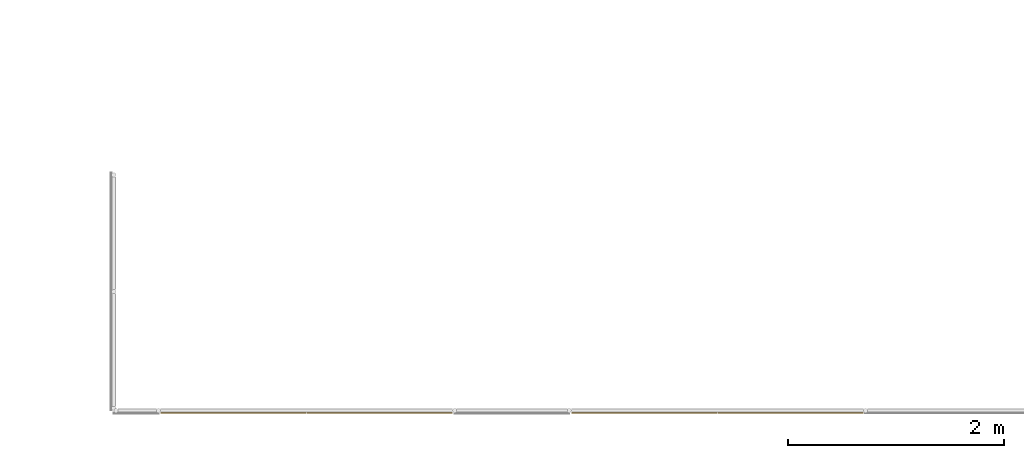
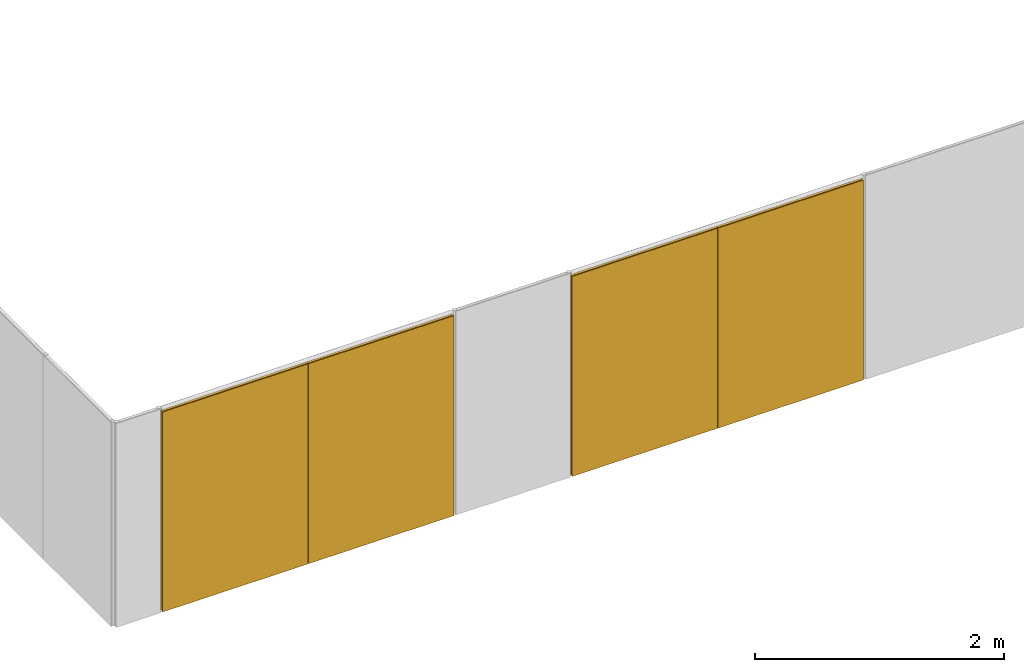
# One storey, part 46 of 82: 2 doors, 1 element without a shape of its own.
"""IFC2X3 building model written with IfcOpenShell, lengths in metres."""

import ifcopenshell
import ifcopenshell.guid

model = None  # the IFC model being written
_history = None  # IfcOwnerHistory: only IFC2X3 demands one
_inside = {}  # id of a spatial element -> (the spatial element, [elements in it])
_under = {}  # id of a project, library or spatial element -> (it, [spatial elements below it])
_declared = {}  # id of a project -> (the project, [libraries it declares])
_typed = {}  # id of a type object -> (the type object, [elements of that type])
_made_of = {}  # id of a material, layer set ... -> (it, [elements and type objects made of it])


def new_model(schema):
    """Start an empty IFC model of exactly this schema.

    Asked for "IFC4X3", IfcOpenShell would pick the latest addendum, in which some entities
    have other attributes; the version numbers below select the first issue.
    IFC2X3 requires an IfcOwnerHistory on every rooted entity: one is made here for all.
    """
    global model, _history
    if schema == "IFC4X3":
        model = ifcopenshell.file(schema_version=(4, 3, 0, 0))
    else:
        model = ifcopenshell.file(schema=schema)
    _inside.clear()
    _under.clear()
    _declared.clear()
    _typed.clear()
    _made_of.clear()
    _history = None
    if model.schema == "IFC2X3":
        org = make("IfcOrganization", Name="unknown")
        user = make(
            "IfcPersonAndOrganization",
            ThePerson=make("IfcPerson", FamilyName="unknown"),
            TheOrganization=org,
        )
        app = make(
            "IfcApplication",
            ApplicationDeveloper=org,
            Version="unknown",
            ApplicationFullName="unknown",
            ApplicationIdentifier="unknown",
        )
        _history = make(
            "IfcOwnerHistory",
            OwningUser=user,
            OwningApplication=app,
            ChangeAction="ADDED",
            CreationDate=0,
        )
    return model


def make(cls, **values):
    """One entity of the class cls with the attributes given. An attribute that is None is left unset."""
    return model.create_entity(
        cls, **{name: value for name, value in values.items() if value is not None}
    )


def entity(cls, *values):
    """Any entity or typed value of the class cls, its attributes in the order of the schema. None: left unset."""
    e = model.create_entity(cls)
    for i, value in enumerate(values):
        if value is not None:
            e[i] = value
    return e


def rooted(cls, **values):
    """An entity with a GlobalId (a new one), such as an element, a storey or a relation."""
    return make(cls, GlobalId=ifcopenshell.guid.new(), OwnerHistory=_history, **values)


def si_unit(unit_type, name, prefix=None):
    """IfcSIUnit, for example si_unit("LENGTHUNIT", "METRE", prefix="MILLI")."""
    return make("IfcSIUnit", UnitType=unit_type, Prefix=prefix, Name=name)


def converted_unit(unit_type, name, factor, base, dimensions=None, offset=None):
    """IfcConversionBasedUnit, such as the inch: factor (a typed value) times the base unit."""
    return make(
        "IfcConversionBasedUnit"
        if offset is None
        else "IfcConversionBasedUnitWithOffset",
        ConversionOffset=offset,
        Dimensions=None
        if dimensions is None
        else entity("IfcDimensionalExponents", *dimensions),
        UnitType=unit_type,
        Name=name,
        ConversionFactor=make(
            "IfcMeasureWithUnit", ValueComponent=factor, UnitComponent=base
        ),
    )


def assignment(units):
    """IfcUnitAssignment: the units of a project."""
    return None if units is None else make("IfcUnitAssignment", Units=units)


def point(xyz):
    """IfcCartesianPoint."""
    return None if xyz is None else make("IfcCartesianPoint", Coordinates=xyz)


def direction(xyz):
    """IfcDirection."""
    return None if xyz is None else make("IfcDirection", DirectionRatios=xyz)


def frame(location, z_axis=None, x_axis=None):
    """IfcAxis2Placement3D, a coordinate frame: its origin and axes. An axis left out is left unset."""
    return make(
        "IfcAxis2Placement3D",
        Location=point(location),
        Axis=direction(z_axis),
        RefDirection=direction(x_axis),
    )


def origin():
    """The frame at (0, 0, 0) with its axes left unset."""
    return frame((0.0, 0.0, 0.0))


def place(relative_to, where):
    """IfcLocalPlacement: puts the frame where relative to a parent placement (None: the world)."""
    return make(
        "IfcLocalPlacement", PlacementRelTo=relative_to, RelativePlacement=where
    )


def context(
    kind, dimensions, precision=None, world=None, true_north=None, identifier=None
):
    """IfcGeometricRepresentationContext, for example the 3D "Model" context."""
    return make(
        "IfcGeometricRepresentationContext",
        ContextIdentifier=identifier,
        ContextType=kind,
        CoordinateSpaceDimension=dimensions,
        Precision=precision,
        WorldCoordinateSystem=world,
        TrueNorth=true_north,
    )


def project(units=None, contexts=None):
    """IfcProject with its units and contexts."""
    return rooted(
        "IfcProject",
        Name="project",
        RepresentationContexts=contexts,
        UnitsInContext=assignment(units),
    )


def spatial(cls, under=None, at=None, **own):
    """A site, building, storey or space (cls), placed at a placement, below another one or the project."""
    s = rooted(cls, ObjectPlacement=at, **own)
    if under is not None:
        _under.setdefault(under.id(), (under, []))[1].append(s)
    return s


def faces_of(points, faces, orient=None, outer=None):
    """IfcFace entities. A face is a list of loops; a loop is a list of indices into points, from 0.

    orient and outer hold one flag for each loop. By default every Orientation is true, the
    first loop of a face is its IfcFaceOuterBound and the others are IfcFaceBound.
    """
    made = []
    for i, loops in enumerate(faces):
        bounds = []
        for j, loop in enumerate(loops):
            is_outer = j == 0 if outer is None else outer[i][j]
            bounds.append(
                make(
                    "IfcFaceOuterBound" if is_outer else "IfcFaceBound",
                    Bound=make("IfcPolyLoop", Polygon=[points[k] for k in loop]),
                    Orientation=True if orient is None else orient[i][j],
                )
            )
        made.append(make("IfcFace", Bounds=bounds))
    return made


def face_set(faces, orient=None, outer=None):
    """The faces of one IfcConnectedFaceSet. surface_model builds it on its shared points."""
    return ("IfcConnectedFaceSet", faces, orient, outer)


def surface_model(cls, points, shells):
    """IfcFaceBasedSurfaceModel or IfcShellBasedSurfaceModel (cls): surfaces that need not close."""
    shared = [point(p) for p in points]
    made = [make(c, CfsFaces=faces_of(shared, fs, o, b)) for c, fs, o, b in shells]
    if cls == "IfcFaceBasedSurfaceModel":
        return make(cls, FbsmFaces=made)
    return make(cls, SbsmBoundary=made)


def shape(context_of_items, identifier, shape_type, items):
    """IfcShapeRepresentation: the items that make up one representation, for example the "Body"."""
    return make(
        "IfcShapeRepresentation",
        ContextOfItems=context_of_items,
        RepresentationIdentifier=identifier,
        RepresentationType=shape_type,
        Items=items,
    )


def source(mapping_origin, context_of_items, identifier, shape_type, items):
    """IfcRepresentationMap: a shape defined once, which mapped items show again and again."""
    return make(
        "IfcRepresentationMap",
        MappingOrigin=mapping_origin,
        MappedRepresentation=shape(context_of_items, identifier, shape_type, items),
    )


def transform(
    local_origin,
    x_axis=None,
    y_axis=None,
    z_axis=None,
    scale=None,
    scale2=None,
    scale3=None,
    uniform=True,
):
    """IfcCartesianTransformationOperator3D, or its non-uniform kind. x_axis, y_axis, z_axis: its Axis1, 2, 3."""
    if uniform:
        return make(
            "IfcCartesianTransformationOperator3D",
            Axis1=direction(x_axis),
            Axis2=direction(y_axis),
            LocalOrigin=point(local_origin),
            Scale=scale,
            Axis3=direction(z_axis),
        )
    return make(
        "IfcCartesianTransformationOperator3DnonUniform",
        Axis1=direction(x_axis),
        Axis2=direction(y_axis),
        LocalOrigin=point(local_origin),
        Scale=scale,
        Axis3=direction(z_axis),
        Scale2=scale2,
        Scale3=scale3,
    )


def mapped(mapping_source, mapping_target):
    """IfcMappedItem: shows the shape of a source again, moved by a transform."""
    return make(
        "IfcMappedItem", MappingSource=mapping_source, MappingTarget=mapping_target
    )


def made_of(thing, what):
    """Note that an element or type object is made of a material, layer set ...; save() writes the relation."""
    if what is not None:
        _made_of.setdefault(what.id(), (what, []))[1].append(thing)
    return thing


def type_object(cls, material=None, **own):
    """A type object (cls), such as IfcWallType, which elements share."""
    return made_of(rooted(cls, **own), material)


def type_shapes(of_type, sources):
    """Give a type object the sources (RepresentationMaps) that its elements show as mapped items."""
    of_type.RepresentationMaps = sources


def element(
    cls,
    number,
    at=None,
    inside=None,
    cuts=None,
    type_object=None,
    material=None,
    context=None,
    identifier="Body",
    shape_type=None,
    held_by="IfcProductDefinitionShape",
    body=None,
    shapes=None,
    **own,
):
    """One element of the class cls, such as IfcWall. Its Tag is "e" and its number.

    at: its placement. inside: the storey or other place that contains it. cuts: it is an
    opening in that element (IfcRelVoidsElement). A single representation is given by context,
    identifier, shape_type and body (its items); several are given by shapes. held_by: the class
    of the entity that holds the representations. save() writes the other relations.
    """
    e = rooted(cls, Tag="e%d" % number, ObjectPlacement=at, **own)
    if body is not None:
        shapes = [shape(context, identifier, shape_type, body)]
    if shapes is not None:
        e.Representation = make(held_by, Representations=shapes)
    if inside is not None:
        _inside.setdefault(inside.id(), (inside, []))[1].append(e)
    if cuts is not None:
        rooted(
            "IfcRelVoidsElement", RelatingBuildingElement=cuts, RelatedOpeningElement=e
        )
    if type_object is not None:
        _typed.setdefault(type_object.id(), (type_object, []))[1].append(e)
    return made_of(e, material)


def aggregate(whole, parts):
    """IfcRelAggregates: a whole, such as a stair, and the parts it consists of."""
    return rooted("IfcRelAggregates", RelatingObject=whole, RelatedObjects=parts)


def save(model, path):
    """Write the relations noted so far, then the file.

    IfcRelAggregates (storeys below a building ...), IfcRelContainedInSpatialStructure (elements
    in a storey), IfcRelDefinesByType, IfcRelAssociatesMaterial and IfcRelDeclares: one each for
    every whole, place, type object, material and project.
    """
    for whole, parts in _under.values():
        aggregate(whole, parts)
    for where, things in _inside.values():
        rooted(
            "IfcRelContainedInSpatialStructure",
            RelatedElements=things,
            RelatingStructure=where,
        )
    for kind, things in _typed.values():
        rooted("IfcRelDefinesByType", RelatedObjects=things, RelatingType=kind)
    for what, things in _made_of.values():
        rooted("IfcRelAssociatesMaterial", RelatedObjects=things, RelatingMaterial=what)
    for by, libraries in _declared.values():
        rooted("IfcRelDeclares", RelatingContext=by, RelatedDefinitions=libraries)
    model.write(path)


model = new_model("IFC2X3")

# Units and contexts
model_context = context("Model", 3, precision=1e-09, world=origin())
plan_context = context("Plan", 3, precision=1e-09, world=origin())
ifc_project = project(units=[si_unit("LENGTHUNIT", "METRE"), si_unit("AREAUNIT", "SQUARE_METRE"), si_unit("VOLUMEUNIT", "CUBIC_METRE"), converted_unit("PLANEANGLEUNIT", "DEGREE", entity("IfcRatioMeasure", 0.01745329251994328), si_unit("PLANEANGLEUNIT", "RADIAN"), dimensions=[0, 0, 0, 0, 0, 0, 0]), si_unit("TIMEUNIT", "SECOND")], contexts=[model_context, plan_context])

# Site, building, storey
site_placement = place(None, origin())
site = spatial("IfcSite", under=ifc_project, at=site_placement, Name="Default", CompositionType="ELEMENT")
building_placement = place(site_placement, origin())
building = spatial("IfcBuilding", under=site, at=building_placement, CompositionType="ELEMENT")
storey_placement = place(building_placement, origin())
storey = spatial("IfcBuildingStorey", under=building, at=storey_placement, Name="First Floor", CompositionType="ELEMENT", Elevation=-3.531500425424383e-13)

# Curtain wall, doors
curtain_wall_placement = place(storey_placement, origin())
curtain_wall = element("IfcCurtainWall", 1, at=curtain_wall_placement, inside=storey, Name="Curtain Wall:Chain Link Fence", ObjectType="Curtain Wall:Chain Link Fence")
door_style = type_object("IfcDoorStyle", Name="M_Curtain Wall Dbl Chain Link", ConstructionType="NOTDEFINED", OperationType="NOTDEFINED", ParameterTakesPrecedence=False, Sizeable=False)
shared_shape = source(origin(), model_context, "Body", "SurfaceModel", [
    surface_model("IfcFaceBasedSurfaceModel", [(-0.001587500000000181, -0.019, 1.962), (-0.001587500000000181, -0.019, 0.0), (-1.350999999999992, -0.019, 0.0), (-1.350999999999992, -0.019, 1.962), (-0.001587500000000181, -0.0269999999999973, 1.962), (-0.001587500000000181, -0.0269999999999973, 0.0), (-1.350999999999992, -0.0269999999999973, 0.0), (-1.350999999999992, -0.0269999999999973, 1.962), (0.00158749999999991, -0.019, 1.962), (1.350999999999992, -0.019, 1.962), (1.350999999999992, -0.019, 0.0), (0.00158749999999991, -0.019, 0.0), (0.00158749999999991, -0.02700000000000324, 1.962), (1.350999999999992, -0.02700000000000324, 1.962), (1.350999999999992, -0.02700000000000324, 0.0), (0.001587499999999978, -0.02700000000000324, 0.0), (1.313647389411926, 0.004917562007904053, 0.03735259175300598), (1.315545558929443, 0.009499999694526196, 0.03545448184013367), (1.313933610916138, 0.005882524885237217, 0.845533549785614), (1.312999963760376, 0.0, 0.03799999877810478), (1.312999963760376, 0.0, 0.8445999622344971), (1.3163822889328, 0.01082068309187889, 0.8479823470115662), (1.318565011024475, 0.01343502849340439, 0.03243502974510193), (1.322499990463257, 0.01645448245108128, 0.02850000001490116), (1.319748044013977, 0.01452208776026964, 0.8513481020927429), (1.32361900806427, 0.01705167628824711, 0.8552190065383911), (1.327082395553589, 0.01835259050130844, 0.02391756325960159), (1.312999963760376, 0.0, 0.882599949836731), (1.313689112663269, 0.005070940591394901, 0.8819108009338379), (1.313647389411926, 0.004917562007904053, 1.924647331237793), (1.312999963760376, 0.0, 1.924000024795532), (1.315545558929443, 0.009499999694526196, 1.92654550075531), (1.315555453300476, 0.009517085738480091, 0.8800446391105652), (1.318212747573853, 0.01307328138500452, 0.877387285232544), (1.318565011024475, 0.01343502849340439, 1.929564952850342), (1.321350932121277, 0.01573517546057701, 0.8742491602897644), (1.322499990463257, 0.01645448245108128, 1.933500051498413), (1.324772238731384, 0.01757153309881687, 0.8708277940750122), (1.336917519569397, 0.01835259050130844, 0.01408243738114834), (1.331999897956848, 0.01899999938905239, 0.01899999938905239), (1.331999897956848, 0.01899999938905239, 0.863599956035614), (1.336917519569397, 0.01835259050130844, 1.947917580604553), (1.327754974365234, 0.01851973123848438, 0.8593550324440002), (1.350352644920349, 0.004917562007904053, 1.961352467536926), (1.350352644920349, 0.004917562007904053, 0.0006474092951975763), (1.348454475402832, 0.009499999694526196, 0.002545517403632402), (1.348454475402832, 0.009499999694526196, 1.959454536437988), (1.3454350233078, 0.01343502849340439, 0.00556497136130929), (1.3454350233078, 0.01343502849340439, 1.956435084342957), (1.341499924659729, 0.01645448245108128, 0.009499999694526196), (1.341499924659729, 0.01645448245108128, 1.952499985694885), (1.35099995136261, 0.0, 1.962000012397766), (1.35099995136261, 0.0, 0.0), (1.328351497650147, 0.01864641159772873, 0.8672484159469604), (1.327082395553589, 0.01835259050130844, 1.938082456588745), (1.331999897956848, 0.01899999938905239, 1.942999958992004), (1.350352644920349, -0.004917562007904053, 0.0006474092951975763), (1.350352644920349, -0.004917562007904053, 1.961352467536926), (1.3454350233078, -0.01343502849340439, 1.956435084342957), (1.3454350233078, -0.01343502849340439, 0.00556497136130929), (1.348454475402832, -0.009499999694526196, 0.002545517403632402), (1.348454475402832, -0.009499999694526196, 1.959454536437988), (1.341499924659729, -0.01645448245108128, 1.952499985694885), (1.341499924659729, -0.01645448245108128, 0.009499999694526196), (1.331999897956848, -0.01899999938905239, 0.863599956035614), (1.331999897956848, -0.01899999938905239, 0.01899999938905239), (1.336917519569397, -0.01835259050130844, 0.01408243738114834), (1.336917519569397, -0.01835259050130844, 1.947917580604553), (1.328351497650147, -0.01864641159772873, 0.8599514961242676), (1.327082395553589, -0.01835259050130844, 0.02391756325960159), (1.328351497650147, -0.01864641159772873, 0.8672484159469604), (1.324772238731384, -0.01757153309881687, 0.8708277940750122), (1.327082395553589, -0.01835259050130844, 1.938082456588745), (1.331999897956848, -0.01899999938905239, 1.942999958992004), (1.322499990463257, -0.01645448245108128, 1.933500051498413), (1.324772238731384, -0.01757153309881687, 0.8563722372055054), (1.322499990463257, -0.01645448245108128, 0.02850000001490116), (1.318565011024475, -0.01343502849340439, 0.03243502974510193), (1.321350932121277, -0.01573517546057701, 0.8529508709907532), (1.318212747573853, -0.01307328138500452, 0.8498127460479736), (1.315545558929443, -0.009499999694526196, 0.03545448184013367), (1.315555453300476, -0.009517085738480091, 0.8471553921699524), (1.313647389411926, -0.004917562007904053, 0.03735259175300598), (1.313689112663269, -0.005070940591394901, 0.8452891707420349), (1.321350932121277, -0.01573517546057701, 0.8742491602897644), (1.318565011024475, -0.01343502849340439, 1.929564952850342), (1.318212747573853, -0.01307328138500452, 0.877387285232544), (1.315545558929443, -0.009499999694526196, 1.92654550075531), (1.313689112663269, -0.005070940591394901, 0.8819108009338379), (1.313647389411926, -0.004917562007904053, 1.924647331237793), (1.315555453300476, -0.009517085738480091, 0.8800446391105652), (0.0262278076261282, 0.01757153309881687, 0.8708277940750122), (0.02264847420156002, 0.01864641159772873, 0.8672484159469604), (0.01899999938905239, 0.01899999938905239, 0.863599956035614), (0.03278728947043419, 0.01307328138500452, 0.877387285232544), (0.02964914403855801, 0.01573517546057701, 0.8742491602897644), (0.03731080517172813, 0.005070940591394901, 0.8819108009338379), (0.03544460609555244, 0.009517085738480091, 0.8800446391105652), (0.03799999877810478, 0.0, 0.882599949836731), (0.03278728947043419, -0.01307328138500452, 0.877387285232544), (0.03544460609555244, -0.009517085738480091, 0.8800446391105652), (0.03731080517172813, -0.005070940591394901, 0.8819108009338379), (0.02264847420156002, -0.01864641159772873, 0.8672484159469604), (0.01899999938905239, -0.01899999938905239, 0.863599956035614), (0.0262278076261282, -0.01757153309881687, 0.8708277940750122), (0.02964914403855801, -0.01573517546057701, 0.8742491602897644), (0.02264847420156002, -0.01864641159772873, 0.8599514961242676), (0.0262278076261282, -0.01757153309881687, 0.8563722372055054), (0.02964914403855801, -0.01573517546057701, 0.8529508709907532), (0.03278728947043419, -0.01307328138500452, 0.8498127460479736), (0.03544460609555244, -0.009517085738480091, 0.8471553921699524), (0.03731080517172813, -0.005070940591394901, 0.8452891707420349), (0.03799999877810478, 0.0, 0.8445999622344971), (0.03706642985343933, 0.005882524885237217, 0.845533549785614), (0.03461770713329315, 0.01082068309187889, 0.8479823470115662), (0.0232449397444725, 0.01851973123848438, 0.8593550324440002), (0.03125189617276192, 0.01452208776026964, 0.8513481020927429), (0.02738095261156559, 0.01705167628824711, 0.8552190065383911), (0.03735259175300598, 0.004917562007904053, 0.03735259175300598), (0.03545448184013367, 0.009499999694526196, 0.03545448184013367), (0.03799999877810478, 0.0, 0.03799999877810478), (0.02850000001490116, 0.01645448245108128, 0.02850000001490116), (0.02391756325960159, 0.01835259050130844, 0.02391756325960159), (0.03243502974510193, 0.01343502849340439, 0.03243502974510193), (0.01899999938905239, 0.01899999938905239, 0.01899999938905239), (0.009499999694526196, 0.01645448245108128, 0.009499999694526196), (0.01408243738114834, 0.01835259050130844, 0.01408243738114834), (0.00556497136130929, 0.01343502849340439, 0.00556497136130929), (0.0006474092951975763, 0.004917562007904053, 0.0006474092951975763), (0.002545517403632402, 0.009499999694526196, 0.002545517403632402), (0.0, 0.0, 0.0), (0.0006474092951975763, -0.004917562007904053, 0.0006474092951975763), (0.002545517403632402, -0.009499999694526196, 0.002545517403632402), (0.009499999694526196, -0.01645448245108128, 0.009499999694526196), (0.00556497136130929, -0.01343502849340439, 0.00556497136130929), (0.01408243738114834, -0.01835259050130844, 0.01408243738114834), (0.01899999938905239, -0.01899999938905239, 0.01899999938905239), (0.02391756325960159, -0.01835259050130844, 0.02391756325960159), (0.02850000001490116, -0.01645448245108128, 0.02850000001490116), (0.03545448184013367, -0.009499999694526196, 0.03545448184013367), (0.03735259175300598, -0.004917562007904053, 0.03735259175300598), (0.03243502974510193, -0.01343502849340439, 0.03243502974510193), (0.03545448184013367, 0.009499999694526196, 1.92654550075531), (0.03735259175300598, 0.004917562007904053, 1.924647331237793), (0.03799999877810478, 0.0, 1.924000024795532), (0.03243502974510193, 0.01343502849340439, 1.929564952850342), (0.02850000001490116, 0.01645448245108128, 1.933500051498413), (0.01899999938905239, 0.01899999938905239, 1.942999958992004), (0.02391756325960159, 0.01835259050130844, 1.938082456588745), (0.01408243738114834, 0.01835259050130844, 1.947917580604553), (0.0006474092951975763, 0.004917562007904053, 1.961352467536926), (0.002545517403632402, 0.009499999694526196, 1.959454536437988), (0.00556497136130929, 0.01343502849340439, 1.956435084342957), (0.009499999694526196, 0.01645448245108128, 1.952499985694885), (0.0, 0.0, 1.962000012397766), (0.0006474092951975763, -0.004917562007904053, 1.961352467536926), (0.00556497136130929, -0.01343502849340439, 1.956435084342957), (0.002545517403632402, -0.009499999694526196, 1.959454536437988), (0.009499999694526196, -0.01645448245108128, 1.952499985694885), (0.01899999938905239, -0.01899999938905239, 1.942999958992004), (0.01408243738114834, -0.01835259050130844, 1.947917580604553), (0.02391756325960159, -0.01835259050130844, 1.938082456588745), (0.02850000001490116, -0.01645448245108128, 1.933500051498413), (0.03243502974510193, -0.01343502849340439, 1.929564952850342), (0.03545448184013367, -0.009499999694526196, 1.92654550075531), (0.03735259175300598, -0.004917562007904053, 1.924647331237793), (-0.03735259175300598, 0.004917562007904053, 0.03735259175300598), (-0.03545448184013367, 0.009499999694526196, 0.03545448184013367), (-0.03706642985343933, 0.005882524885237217, 0.845533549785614), (-0.03799999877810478, 0.0, 0.03799999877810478), (-0.03799999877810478, 0.0, 0.8445999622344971), (-0.03461770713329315, 0.01082068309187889, 0.8479823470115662), (-0.03243502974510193, 0.01343502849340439, 0.03243502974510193), (-0.02850000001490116, 0.01645448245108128, 0.02850000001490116), (-0.03125189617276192, 0.01452208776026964, 0.8513481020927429), (-0.02738095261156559, 0.01705167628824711, 0.8552190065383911), (-0.02391756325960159, 0.01835259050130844, 0.02391756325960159), (-0.03799999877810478, 0.0, 0.882599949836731), (-0.03731080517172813, 0.005070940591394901, 0.8819108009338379), (-0.03735259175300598, 0.004917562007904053, 1.924647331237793), (-0.03799999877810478, 0.0, 1.924000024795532), (-0.03545448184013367, 0.009499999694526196, 1.92654550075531), (-0.03544460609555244, 0.009517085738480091, 0.8800446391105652), (-0.03278728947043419, 0.01307328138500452, 0.877387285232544), (-0.03243502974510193, 0.01343502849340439, 1.929564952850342), (-0.02964914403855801, 0.01573517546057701, 0.8742491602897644), (-0.02850000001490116, 0.01645448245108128, 1.933500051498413), (-0.0262278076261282, 0.01757153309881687, 0.8708277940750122), (-0.01408243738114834, 0.01835259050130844, 0.01408243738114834), (-0.01899999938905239, 0.01899999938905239, 0.01899999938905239), (-0.01899999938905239, 0.01899999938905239, 0.863599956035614), (-0.01408243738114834, 0.01835259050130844, 1.947917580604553), (-0.0232449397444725, 0.01851973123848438, 0.8593550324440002), (-0.0006474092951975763, 0.004917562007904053, 1.961352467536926), (-0.0006474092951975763, 0.004917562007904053, 0.0006474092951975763), (-0.002545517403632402, 0.009499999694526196, 0.002545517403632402), (-0.002545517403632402, 0.009499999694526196, 1.959454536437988), (-0.00556497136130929, 0.01343502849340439, 0.00556497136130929), (-0.00556497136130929, 0.01343502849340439, 1.956435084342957), (-0.009499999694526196, 0.01645448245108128, 0.009499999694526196), (-0.009499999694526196, 0.01645448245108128, 1.952499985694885), (-0.02264847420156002, 0.01864641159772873, 0.8672484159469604), (-0.02391756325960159, 0.01835259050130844, 1.938082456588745), (-0.01899999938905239, 0.01899999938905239, 1.942999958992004), (-0.0006474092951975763, -0.004917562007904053, 0.0006474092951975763), (-0.0006474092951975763, -0.004917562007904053, 1.961352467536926), (-0.00556497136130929, -0.01343502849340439, 1.956435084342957), (-0.00556497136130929, -0.01343502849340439, 0.00556497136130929), (-0.002545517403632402, -0.009499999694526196, 0.002545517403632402), (-0.002545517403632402, -0.009499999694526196, 1.959454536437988), (-0.009499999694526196, -0.01645448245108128, 1.952499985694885), (-0.009499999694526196, -0.01645448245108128, 0.009499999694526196), (-0.01899999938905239, -0.01899999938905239, 0.863599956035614), (-0.01899999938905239, -0.01899999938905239, 0.01899999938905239), (-0.01408243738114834, -0.01835259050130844, 0.01408243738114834), (-0.01408243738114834, -0.01835259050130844, 1.947917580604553), (-0.02264847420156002, -0.01864641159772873, 0.8599514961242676), (-0.02391756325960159, -0.01835259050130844, 0.02391756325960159), (-0.02264847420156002, -0.01864641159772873, 0.8672484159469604), (-0.0262278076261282, -0.01757153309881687, 0.8708277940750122), (-0.02391756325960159, -0.01835259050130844, 1.938082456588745), (-0.01899999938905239, -0.01899999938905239, 1.942999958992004), (-0.02850000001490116, -0.01645448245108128, 1.933500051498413), (-0.0262278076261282, -0.01757153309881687, 0.8563722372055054), (-0.02850000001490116, -0.01645448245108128, 0.02850000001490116), (-0.03243502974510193, -0.01343502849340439, 0.03243502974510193), (-0.02964914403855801, -0.01573517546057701, 0.8529508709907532), (-0.03278728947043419, -0.01307328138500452, 0.8498127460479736), (-0.03545448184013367, -0.009499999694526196, 0.03545448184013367), (-0.03544460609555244, -0.009517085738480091, 0.8471553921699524), (-0.03735259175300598, -0.004917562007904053, 0.03735259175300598), (-0.03731080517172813, -0.005070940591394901, 0.8452891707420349), (-0.02964914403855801, -0.01573517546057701, 0.8742491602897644), (-0.03243502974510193, -0.01343502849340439, 1.929564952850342), (-0.03278728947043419, -0.01307328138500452, 0.877387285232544), (-0.03545448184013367, -0.009499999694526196, 1.92654550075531), (-0.03731080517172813, -0.005070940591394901, 0.8819108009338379), (-0.03735259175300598, -0.004917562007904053, 1.924647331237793), (-0.03544460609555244, -0.009517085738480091, 0.8800446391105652), (-1.324772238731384, 0.01757153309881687, 0.8708277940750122), (-1.328351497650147, 0.01864641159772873, 0.8672484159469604), (-1.331999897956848, 0.01899999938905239, 0.863599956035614), (-1.318212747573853, 0.01307328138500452, 0.877387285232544), (-1.321350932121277, 0.01573517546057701, 0.8742491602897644), (-1.313689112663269, 0.005070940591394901, 0.8819108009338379), (-1.315555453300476, 0.009517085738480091, 0.8800446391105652), (-1.312999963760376, 0.0, 0.882599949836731), (-1.318212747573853, -0.01307328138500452, 0.877387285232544), (-1.315555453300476, -0.009517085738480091, 0.8800446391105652), (-1.313689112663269, -0.005070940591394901, 0.8819108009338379), (-1.328351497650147, -0.01864641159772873, 0.8672484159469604), (-1.331999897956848, -0.01899999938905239, 0.863599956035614), (-1.324772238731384, -0.01757153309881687, 0.8708277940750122), (-1.321350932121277, -0.01573517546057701, 0.8742491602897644), (-1.328351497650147, -0.01864641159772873, 0.8599514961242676), (-1.324772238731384, -0.01757153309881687, 0.8563722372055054), (-1.321350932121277, -0.01573517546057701, 0.8529508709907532), (-1.318212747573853, -0.01307328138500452, 0.8498127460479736), (-1.315555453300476, -0.009517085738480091, 0.8471553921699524), (-1.313689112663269, -0.005070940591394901, 0.8452891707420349), (-1.312999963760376, 0.0, 0.8445999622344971), (-1.313933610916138, 0.005882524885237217, 0.845533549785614), (-1.3163822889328, 0.01082068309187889, 0.8479823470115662), (-1.327754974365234, 0.01851973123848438, 0.8593550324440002), (-1.319748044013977, 0.01452208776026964, 0.8513481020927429), (-1.32361900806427, 0.01705167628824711, 0.8552190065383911), (-1.313647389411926, 0.004917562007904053, 0.03735259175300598), (-1.315545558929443, 0.009499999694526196, 0.03545448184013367), (-1.312999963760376, 0.0, 0.03799999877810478), (-1.322499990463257, 0.01645448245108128, 0.02850000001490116), (-1.327082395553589, 0.01835259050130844, 0.02391756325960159), (-1.318565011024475, 0.01343502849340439, 0.03243502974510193), (-1.331999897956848, 0.01899999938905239, 0.01899999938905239), (-1.341499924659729, 0.01645448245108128, 0.009499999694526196), (-1.336917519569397, 0.01835259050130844, 0.01408243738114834), (-1.3454350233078, 0.01343502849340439, 0.00556497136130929), (-1.350352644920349, 0.004917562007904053, 0.0006474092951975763), (-1.348454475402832, 0.009499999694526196, 0.002545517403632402), (-1.35099995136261, 0.0, 0.0), (-1.350352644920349, -0.004917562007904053, 0.0006474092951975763), (-1.348454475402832, -0.009499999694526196, 0.002545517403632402), (-1.341499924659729, -0.01645448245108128, 0.009499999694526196), (-1.3454350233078, -0.01343502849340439, 0.00556497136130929), (-1.336917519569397, -0.01835259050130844, 0.01408243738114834), (-1.331999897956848, -0.01899999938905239, 0.01899999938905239), (-1.327082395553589, -0.01835259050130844, 0.02391756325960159), (-1.322499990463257, -0.01645448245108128, 0.02850000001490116), (-1.315545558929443, -0.009499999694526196, 0.03545448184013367), (-1.313647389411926, -0.004917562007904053, 0.03735259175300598), (-1.318565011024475, -0.01343502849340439, 0.03243502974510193), (-1.315545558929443, 0.009499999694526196, 1.92654550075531), (-1.313647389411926, 0.004917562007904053, 1.924647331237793), (-1.312999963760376, 0.0, 1.924000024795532), (-1.318565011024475, 0.01343502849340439, 1.929564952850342), (-1.322499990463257, 0.01645448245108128, 1.933500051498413), (-1.331999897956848, 0.01899999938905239, 1.942999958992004), (-1.327082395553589, 0.01835259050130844, 1.938082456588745), (-1.336917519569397, 0.01835259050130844, 1.947917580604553), (-1.350352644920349, 0.004917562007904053, 1.961352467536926), (-1.348454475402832, 0.009499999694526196, 1.959454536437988), (-1.3454350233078, 0.01343502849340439, 1.956435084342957), (-1.341499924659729, 0.01645448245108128, 1.952499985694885), (-1.35099995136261, 0.0, 1.962000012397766), (-1.350352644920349, -0.004917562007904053, 1.961352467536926), (-1.3454350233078, -0.01343502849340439, 1.956435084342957), (-1.348454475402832, -0.009499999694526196, 1.959454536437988), (-1.341499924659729, -0.01645448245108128, 1.952499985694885), (-1.331999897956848, -0.01899999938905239, 1.942999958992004), (-1.336917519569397, -0.01835259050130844, 1.947917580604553), (-1.327082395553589, -0.01835259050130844, 1.938082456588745), (-1.322499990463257, -0.01645448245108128, 1.933500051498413), (-1.318565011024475, -0.01343502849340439, 1.929564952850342), (-1.315545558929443, -0.009499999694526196, 1.92654550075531), (-1.313647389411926, -0.004917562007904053, 1.924647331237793)], [face_set([[[0, 1, 2, 3]], [[4, 5, 6, 7]], [[3, 0, 4, 7]], [[2, 3, 7, 6]], [[1, 5, 6, 2]], [[0, 4, 5, 1]]]), face_set([[[8, 9, 10, 11]], [[12, 13, 14, 15]], [[11, 15, 12, 8]], [[10, 14, 15, 11]], [[9, 10, 14, 13]], [[8, 9, 13, 12]]]), face_set([[[16, 17, 18]], [[19, 16, 20]], [[20, 16, 18]], [[17, 21, 18]], [[22, 23, 24]], [[24, 21, 22]], [[25, 24, 23]], [[25, 23, 26]], [[22, 21, 17]], [[27, 28, 29]], [[29, 30, 27]], [[29, 28, 31]], [[32, 31, 28]], [[33, 31, 32]], [[34, 33, 35]], [[33, 34, 31]], [[35, 36, 34]], [[37, 36, 35]], [[38, 39, 40, 41]], [[42, 26, 39]], [[42, 39, 40]], [[43, 44, 45, 46]], [[46, 45, 47, 48]], [[48, 47, 49, 50]], [[50, 49, 38, 41]], [[51, 52, 44, 43]], [[37, 53, 54]], [[53, 55, 54]], [[53, 40, 55]], [[40, 55, 41]], [[37, 54, 36]], [[25, 26, 42]], [[56, 52, 51, 57]], [[58, 59, 60, 61]], [[61, 60, 56, 57]], [[62, 63, 59, 58]], [[64, 65, 66, 67]], [[65, 68, 64]], [[68, 65, 69]], [[67, 66, 63, 62]], [[70, 71, 72]], [[64, 67, 73]], [[73, 70, 72]], [[71, 74, 72]], [[73, 64, 70]], [[68, 69, 75]], [[76, 77, 78]], [[79, 78, 77]], [[80, 81, 79]], [[79, 77, 80]], [[76, 78, 75]], [[80, 82, 83]], [[82, 20, 83]], [[20, 82, 19]], [[80, 83, 81]], [[84, 74, 71]], [[84, 85, 74]], [[85, 84, 86]], [[85, 86, 87]], [[88, 27, 89]], [[90, 88, 87]], [[89, 87, 88]], [[30, 89, 27]], [[90, 87, 86]], [[76, 75, 69]], [[91, 92, 53, 37]], [[92, 53, 40, 93]], [[94, 95, 35, 33]], [[96, 97, 32, 28]], [[97, 94, 33, 32]], [[95, 91, 37, 35]], [[28, 27, 98, 96]], [[99, 100, 90, 86]], [[100, 101, 88, 90]], [[64, 70, 102, 103]], [[104, 105, 84, 71]], [[102, 104, 71, 70]], [[105, 99, 86, 84]], [[27, 88, 101, 98]], [[75, 68, 106, 107]], [[68, 64, 103, 106]], [[79, 78, 108, 109]], [[83, 81, 110, 111]], [[81, 79, 109, 110]], [[78, 75, 107, 108]], [[20, 83, 111, 112]], [[21, 18, 113, 114]], [[18, 20, 112, 113]], [[40, 42, 115, 93]], [[25, 24, 116, 117]], [[42, 25, 117, 115]], [[24, 21, 114, 116]], [[16, 118, 119, 17]], [[19, 120, 118, 16]], [[23, 121, 122, 26]], [[22, 123, 121, 23]], [[17, 119, 123, 22]], [[124, 39, 26, 122]], [[49, 125, 126, 38]], [[47, 127, 125, 49]], [[44, 128, 129, 45]], [[45, 129, 127, 47]], [[52, 130, 128, 44]], [[38, 126, 124, 39]], [[131, 130, 52, 56]], [[60, 132, 131, 56]], [[63, 133, 134, 59]], [[59, 134, 132, 60]], [[66, 135, 133, 63]], [[135, 66, 65, 136]], [[69, 137, 138, 76]], [[65, 136, 137, 69]], [[80, 139, 140, 82]], [[77, 141, 139, 80]], [[76, 138, 141, 77]], [[120, 19, 82, 140]], [[142, 96, 143]], [[144, 143, 98]], [[98, 143, 96]], [[142, 97, 96]], [[145, 146, 95]], [[97, 142, 94]], [[95, 94, 145]], [[91, 95, 146]], [[94, 142, 145]], [[113, 118, 112]], [[118, 120, 112]], [[119, 118, 113]], [[114, 119, 113]], [[123, 116, 121]], [[114, 123, 119]], [[123, 114, 116]], [[121, 116, 117]], [[92, 147, 93]], [[91, 148, 92]], [[148, 91, 146]], [[92, 148, 147]], [[149, 147, 93]], [[128, 150, 151, 129]], [[129, 151, 152, 127]], [[127, 152, 153, 125]], [[125, 153, 149, 126]], [[130, 154, 150, 128]], [[122, 115, 124]], [[115, 93, 124]], [[93, 124, 126, 149]], [[122, 117, 115]], [[122, 121, 117]], [[155, 154, 130, 131]], [[134, 156, 157, 132]], [[132, 157, 155, 131]], [[133, 158, 156, 134]], [[103, 159, 160, 135]], [[159, 102, 103]], [[102, 159, 161]], [[135, 160, 158, 133]], [[106, 107, 137]], [[103, 135, 136]], [[136, 106, 137]], [[107, 138, 137]], [[136, 103, 106]], [[102, 161, 104]], [[162, 163, 105]], [[99, 105, 163]], [[164, 100, 99]], [[99, 163, 164]], [[162, 105, 104]], [[164, 165, 101]], [[165, 98, 101]], [[98, 165, 144]], [[164, 101, 100]], [[108, 138, 107]], [[108, 141, 138]], [[141, 108, 109]], [[141, 109, 139]], [[111, 112, 140]], [[110, 111, 139]], [[140, 139, 111]], [[120, 140, 112]], [[110, 139, 109]], [[162, 104, 161]], [[143, 29, 31, 142]], [[144, 30, 29, 143]], [[146, 36, 54, 148]], [[145, 34, 36, 146]], [[142, 31, 34, 145]], [[55, 147, 148, 54]], [[153, 50, 41, 149]], [[152, 48, 50, 153]], [[150, 43, 46, 151]], [[151, 46, 48, 152]], [[154, 51, 43, 150]], [[149, 41, 55, 147]], [[57, 51, 154, 155]], [[157, 61, 57, 155]], [[158, 62, 58, 156]], [[156, 58, 61, 157]], [[160, 67, 62, 158]], [[67, 160, 159, 73]], [[161, 72, 74, 162]], [[159, 73, 72, 161]], [[164, 87, 89, 165]], [[163, 85, 87, 164]], [[162, 74, 85, 163]], [[30, 144, 165, 89]]]), face_set([[[166, 167, 168]], [[169, 166, 170]], [[170, 166, 168]], [[167, 171, 168]], [[172, 173, 174]], [[174, 171, 172]], [[175, 174, 173]], [[175, 173, 176]], [[172, 171, 167]], [[177, 178, 179]], [[179, 180, 177]], [[179, 178, 181]], [[182, 181, 178]], [[183, 181, 182]], [[184, 183, 185]], [[183, 184, 181]], [[185, 186, 184]], [[187, 186, 185]], [[188, 189, 190, 191]], [[192, 176, 189]], [[192, 189, 190]], [[193, 194, 195, 196]], [[196, 195, 197, 198]], [[198, 197, 199, 200]], [[200, 199, 188, 191]], [[154, 130, 194, 193]], [[187, 201, 202]], [[201, 203, 202]], [[201, 190, 203]], [[190, 203, 191]], [[187, 202, 186]], [[175, 176, 192]], [[204, 130, 154, 205]], [[206, 207, 208, 209]], [[209, 208, 204, 205]], [[210, 211, 207, 206]], [[212, 213, 214, 215]], [[213, 216, 212]], [[216, 213, 217]], [[215, 214, 211, 210]], [[218, 219, 220]], [[212, 215, 221]], [[221, 218, 220]], [[219, 222, 220]], [[221, 212, 218]], [[216, 217, 223]], [[224, 225, 226]], [[227, 226, 225]], [[228, 229, 227]], [[227, 225, 228]], [[224, 226, 223]], [[228, 230, 231]], [[230, 170, 231]], [[170, 230, 169]], [[228, 231, 229]], [[232, 222, 219]], [[232, 233, 222]], [[233, 232, 234]], [[233, 234, 235]], [[236, 177, 237]], [[238, 236, 235]], [[237, 235, 236]], [[180, 237, 177]], [[238, 235, 234]], [[224, 223, 217]], [[239, 240, 201, 187]], [[240, 201, 190, 241]], [[242, 243, 185, 183]], [[244, 245, 182, 178]], [[245, 242, 183, 182]], [[243, 239, 187, 185]], [[178, 177, 246, 244]], [[247, 248, 238, 234]], [[248, 249, 236, 238]], [[212, 218, 250, 251]], [[252, 253, 232, 219]], [[250, 252, 219, 218]], [[253, 247, 234, 232]], [[177, 236, 249, 246]], [[223, 216, 254, 255]], [[216, 212, 251, 254]], [[227, 226, 256, 257]], [[231, 229, 258, 259]], [[229, 227, 257, 258]], [[226, 223, 255, 256]], [[170, 231, 259, 260]], [[171, 168, 261, 262]], [[168, 170, 260, 261]], [[190, 192, 263, 241]], [[175, 174, 264, 265]], [[192, 175, 265, 263]], [[174, 171, 262, 264]], [[166, 266, 267, 167]], [[169, 268, 266, 166]], [[173, 269, 270, 176]], [[172, 271, 269, 173]], [[167, 267, 271, 172]], [[272, 189, 176, 270]], [[199, 273, 274, 188]], [[197, 275, 273, 199]], [[194, 276, 277, 195]], [[195, 277, 275, 197]], [[130, 278, 276, 194]], [[188, 274, 272, 189]], [[279, 278, 130, 204]], [[208, 280, 279, 204]], [[211, 281, 282, 207]], [[207, 282, 280, 208]], [[214, 283, 281, 211]], [[283, 214, 213, 284]], [[217, 285, 286, 224]], [[213, 284, 285, 217]], [[228, 287, 288, 230]], [[225, 289, 287, 228]], [[224, 286, 289, 225]], [[268, 169, 230, 288]], [[290, 244, 291]], [[292, 291, 246]], [[246, 291, 244]], [[290, 245, 244]], [[293, 294, 243]], [[245, 290, 242]], [[243, 242, 293]], [[239, 243, 294]], [[242, 290, 293]], [[261, 266, 260]], [[266, 268, 260]], [[267, 266, 261]], [[262, 267, 261]], [[271, 264, 269]], [[262, 271, 267]], [[271, 262, 264]], [[269, 264, 265]], [[240, 295, 241]], [[239, 296, 240]], [[296, 239, 294]], [[240, 296, 295]], [[297, 295, 241]], [[276, 298, 299, 277]], [[277, 299, 300, 275]], [[275, 300, 301, 273]], [[273, 301, 297, 274]], [[278, 302, 298, 276]], [[270, 263, 272]], [[263, 241, 272]], [[241, 272, 274, 297]], [[270, 265, 263]], [[270, 269, 265]], [[303, 302, 278, 279]], [[282, 304, 305, 280]], [[280, 305, 303, 279]], [[281, 306, 304, 282]], [[251, 307, 308, 283]], [[307, 250, 251]], [[250, 307, 309]], [[283, 308, 306, 281]], [[254, 255, 285]], [[251, 283, 284]], [[284, 254, 285]], [[255, 286, 285]], [[284, 251, 254]], [[250, 309, 252]], [[310, 311, 253]], [[247, 253, 311]], [[312, 248, 247]], [[247, 311, 312]], [[310, 253, 252]], [[312, 313, 249]], [[313, 246, 249]], [[246, 313, 292]], [[312, 249, 248]], [[256, 286, 255]], [[256, 289, 286]], [[289, 256, 257]], [[289, 257, 287]], [[259, 260, 288]], [[258, 259, 287]], [[288, 287, 259]], [[268, 288, 260]], [[258, 287, 257]], [[310, 252, 309]], [[291, 179, 181, 290]], [[292, 180, 179, 291]], [[294, 186, 202, 296]], [[293, 184, 186, 294]], [[290, 181, 184, 293]], [[203, 295, 296, 202]], [[301, 200, 191, 297]], [[300, 198, 200, 301]], [[298, 193, 196, 299]], [[299, 196, 198, 300]], [[302, 154, 193, 298]], [[297, 191, 203, 295]], [[205, 154, 302, 303]], [[305, 209, 205, 303]], [[306, 210, 206, 304]], [[304, 206, 209, 305]], [[308, 215, 210, 306]], [[215, 308, 307, 221]], [[309, 220, 222, 310]], [[307, 221, 220, 309]], [[312, 235, 237, 313]], [[311, 233, 235, 312]], [[310, 222, 233, 311]], [[180, 292, 313, 237]]])]),
])
type_shapes(door_style, [shared_shape])
placement = place(building_placement, frame((0.0, 0.0, -1.0)))
door_1_placement = place(placement, frame((-32.87879311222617, -9.554161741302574, 0.0)))
door_1 = element("IfcDoor", 2, at=door_1_placement, type_object=door_style, Name="M_Curtain Wall Dbl Chain Link:M_Curtain Wall Dbl Chain Link:M_Curtain Wall Dbl Chain Link", ObjectType="M_Curtain Wall Dbl Chain Link", OverallHeight=1.963855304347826, OverallWidth=2.701999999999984, context=model_context, shape_type="MappedRepresentation", body=[
    mapped(shared_shape, transform((0.0, 0.0, 0.0), scale=1.0)),
])
door_2_placement = place(placement, frame((-36.67916183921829, -9.554161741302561, 0.0)))
door_2 = element("IfcDoor", 3, at=door_2_placement, type_object=door_style, Name="M_Curtain Wall Dbl Chain Link:M_Curtain Wall Dbl Chain Link:M_Curtain Wall Dbl Chain Link", ObjectType="M_Curtain Wall Dbl Chain Link", OverallHeight=1.963855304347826, OverallWidth=2.701999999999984, context=model_context, shape_type="MappedRepresentation", body=[
    mapped(shared_shape, transform((0.0, 0.0, 0.0), scale=1.0)),
])
aggregate(curtain_wall, [door_1, door_2])

save(model, "model.ifc")
